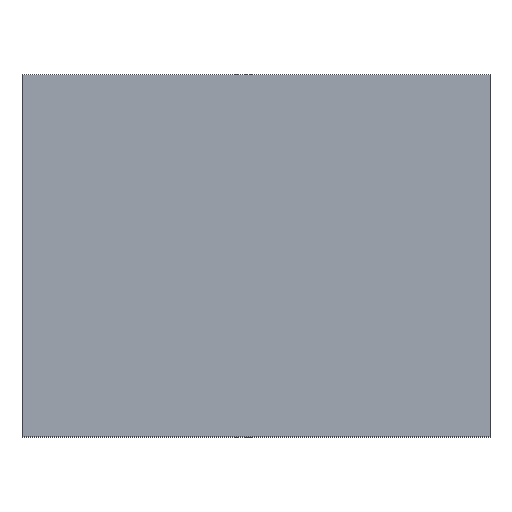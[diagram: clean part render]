
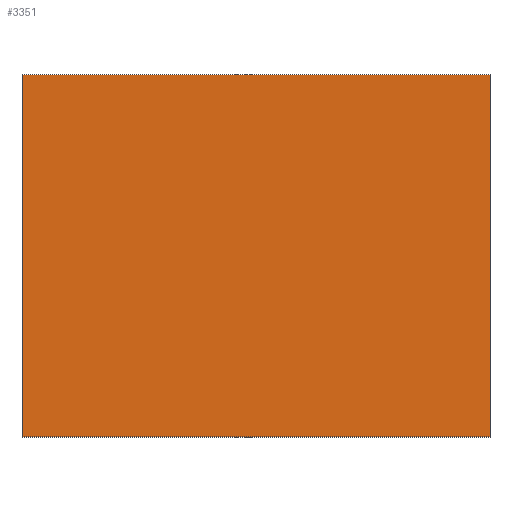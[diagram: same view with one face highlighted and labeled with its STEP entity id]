
A CAD part, top view. The second image highlights one B-rep face of the part: STEP entity #3351.
In plain terms, the highlighted planar face has unit normal (0, 0, 1).
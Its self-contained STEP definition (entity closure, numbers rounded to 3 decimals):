
#3215=CARTESIAN_POINT('Vertex',(110.5,85.5,41.)) ;
#3229=CARTESIAN_POINT('Vertex',(-110.5,85.5,41.)) ;
#3232=CARTESIAN_POINT('Line Origine',(0.,85.5,41.)) ;
#3260=CARTESIAN_POINT('Vertex',(-110.5,-85.5,41.)) ;
#3263=CARTESIAN_POINT('Line Origine',(-110.5,0.,41.)) ;
#3291=CARTESIAN_POINT('Vertex',(110.5,-85.5,41.)) ;
#3294=CARTESIAN_POINT('Line Origine',(0.,-85.5,41.)) ;
#3316=CARTESIAN_POINT('Line Origine',(110.5,0.,41.)) ;
#3340=CARTESIAN_POINT('Axis2P3D Location',(0.,0.,41.)) ;
#3233=DIRECTION('Vector Direction',(1.,0.,0.)) ;
#3264=DIRECTION('Vector Direction',(0.,1.,0.)) ;
#3295=DIRECTION('Vector Direction',(-1.,0.,0.)) ;
#3317=DIRECTION('Vector Direction',(0.,-1.,0.)) ;
#3341=DIRECTION('Axis2P3D Direction',(0.,0.,1.)) ;
#3342=DIRECTION('Axis2P3D XDirection',(1.,0.,0.)) ;
#3343=AXIS2_PLACEMENT_3D('Plane Axis2P3D',#3340,#3341,#3342) ;
#3346=ORIENTED_EDGE('',*,*,#3236,.T.) ;
#3347=ORIENTED_EDGE('',*,*,#3267,.T.) ;
#3348=ORIENTED_EDGE('',*,*,#3298,.T.) ;
#3349=ORIENTED_EDGE('',*,*,#3320,.T.) ;
#3234=VECTOR('Line Direction',#3233,1.) ;
#3265=VECTOR('Line Direction',#3264,1.) ;
#3296=VECTOR('Line Direction',#3295,1.) ;
#3318=VECTOR('Line Direction',#3317,1.) ;
#3351=ADVANCED_FACE('cavity',(#3350),#3344,.T.) ;
#3236=EDGE_CURVE('',#3216,#3230,#3235,.F.) ;
#3267=EDGE_CURVE('',#3230,#3261,#3266,.F.) ;
#3298=EDGE_CURVE('',#3261,#3292,#3297,.F.) ;
#3320=EDGE_CURVE('',#3292,#3216,#3319,.F.) ;
#3345=EDGE_LOOP('',(#3346,#3347,#3348,#3349)) ;
#3350=FACE_OUTER_BOUND('',#3345,.T.) ;
#3235=LINE('Line',#3232,#3234) ;
#3266=LINE('Line',#3263,#3265) ;
#3297=LINE('Line',#3294,#3296) ;
#3319=LINE('Line',#3316,#3318) ;
#3344=PLANE('Plane',#3343) ;
#3216=VERTEX_POINT('',#3215) ;
#3230=VERTEX_POINT('',#3229) ;
#3261=VERTEX_POINT('',#3260) ;
#3292=VERTEX_POINT('',#3291) ;
